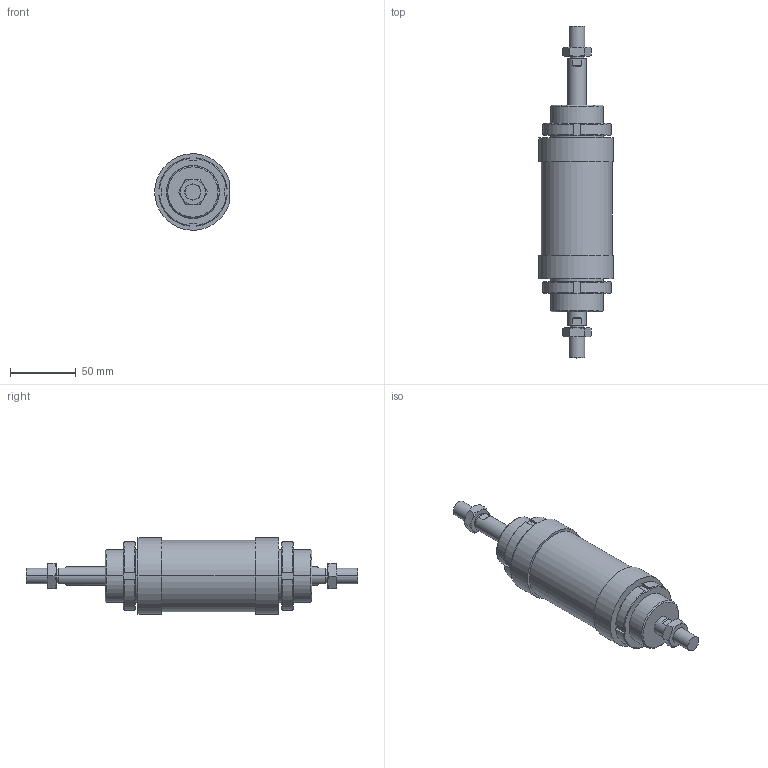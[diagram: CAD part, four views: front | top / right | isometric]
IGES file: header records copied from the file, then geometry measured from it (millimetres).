
Global section: file name: No Iges File Name specified; native system: AutoDesk Inventor R6.0; preprocessor: AutoDesk Inventor Iges Exporter R6.0; author: No Author specified; organization: No Organization specified; date: 20030403.072944; units: millimetre
Bounding box: 56.6 x 252 x 57.85 mm (x, y, z)
Volume: 348725.2 mm3; surface area: 60121.9 mm2
Topology: 6 solids, 6 shells, 182 faces, 424 edges, 264 vertices
Faces by surface type: plane 66, cone 52, bspline 30, cylinder 28, revolution 6
